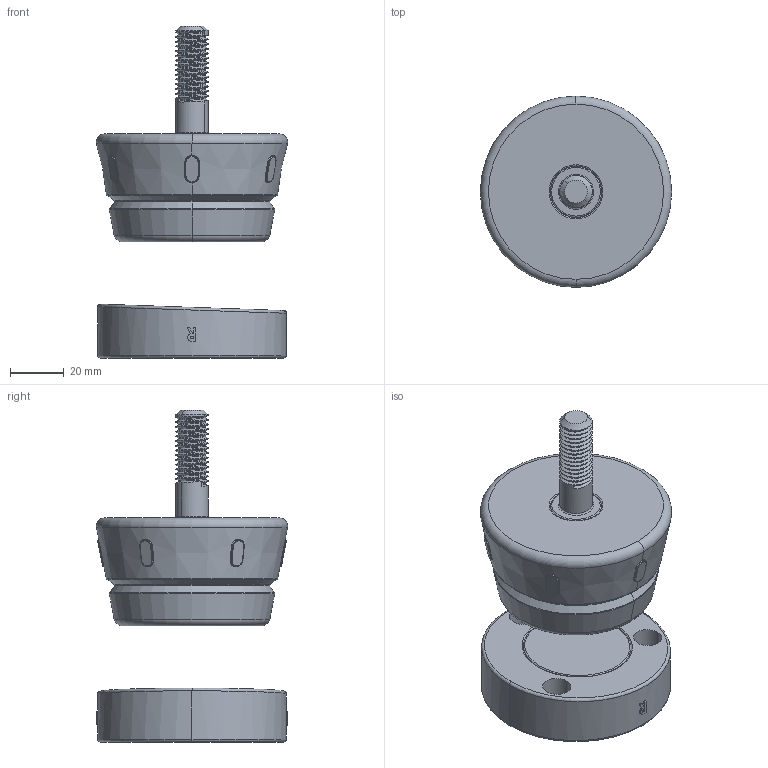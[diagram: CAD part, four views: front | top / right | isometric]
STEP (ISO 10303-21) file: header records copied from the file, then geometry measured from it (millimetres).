
FILE_DESCRIPTION (( 'STEP AP214' ), '1' );
FILE_NAME ('0888-0933.STEP', '2025-08-04T08:20:42', ( '' ), ( '' ), 'SwSTEP 2.0', 'SolidWorks 2024', '' );
FILE_SCHEMA (( 'AUTOMOTIVE_DESIGN' ));
Length unit declared in the file: millimetre
Products named in the file (8): 0888-0932-1; 0888-0932-2; 0888-0933-3-3; 0888-0933; 0888-0933-2-2; 0888-0933-2; 0888-0933-1; 0888-0933-1-1
Assembly tree (7 placements, depth 3):
  0888-0933
    0888-0933-1
      0888-0932-1
      0888-0932-2
    0888-0933-2
      0888-0933-1-1
      0888-0933-2-2
      0888-0933-3-3
Bounding box: 70.93 x 71 x 123.07 mm (x, y, z)
Volume: 201370.2 mm3; surface area: 43791.8 mm2
Topology: 5 solids, 5 shells, 252 faces, 565 edges, 339 vertices
Faces by surface type: cylinder 99, plane 58, torus 52, bspline 33, cone 10
Entity records: 12337 total; most frequent: CARTESIAN_POINT 6805, ORIENTED_EDGE 1130, DIRECTION 1124, EDGE_CURVE 565, AXIS2_PLACEMENT_3D 478, VERTEX_POINT 339, EDGE_LOOP 274, FACE_OUTER_BOUND 252
